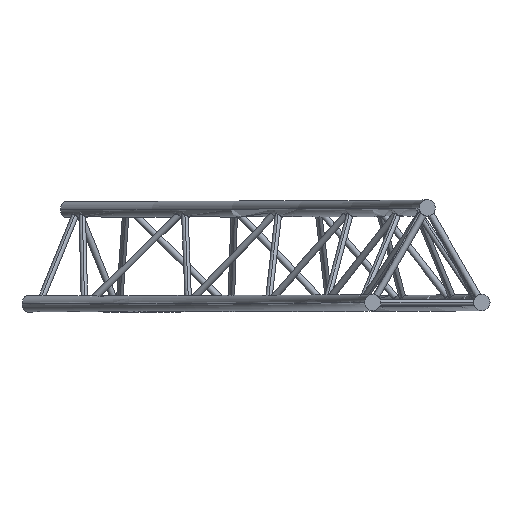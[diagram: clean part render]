
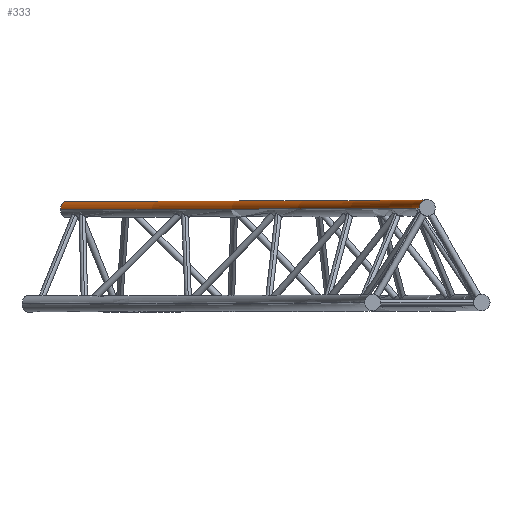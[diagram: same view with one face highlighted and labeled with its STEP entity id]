
A CAD part, top view. The second image highlights one B-rep face of the part: STEP entity #333.
In plain terms, the highlighted toroidal (fillet/blend) face has major radius 3806.5 mm and minor radius 25 mm.
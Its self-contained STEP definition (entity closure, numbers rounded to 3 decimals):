
#15 = VERTEX_POINT ( 'NONE', #531 ) ;
#32 = EDGE_CURVE ( 'NONE', #95, #15, #710, .T. ) ;
#42 = VERTEX_POINT ( 'NONE', #855 ) ;
#95 = VERTEX_POINT ( 'NONE', #1491 ) ;
#333 = ADVANCED_FACE ( 'NONE', ( #3200 ), #3197, .T. ) ;
#380 = EDGE_CURVE ( 'NONE', #15, #9348, #3561, .T. ) ;
#385 = ORIENTED_EDGE ( 'NONE', *, *, #380, .F. ) ;
#399 = ORIENTED_EDGE ( 'NONE', *, *, #400, .T. ) ;
#400 = EDGE_CURVE ( 'NONE', #95, #42, #3645, .T. ) ;
#401 = ORIENTED_EDGE ( 'NONE', *, *, #9373, .T. ) ;
#402 = ORIENTED_EDGE ( 'NONE', *, *, #32, .F. ) ;
#409 = EDGE_LOOP ( 'NONE', ( #402, #399, #401, #385 ) ) ;
#531 = CARTESIAN_POINT ( 'NONE',  ( 3831.5, 194.567, 0. ) ) ;
#706 = DIRECTION ( 'NONE',  ( 0., 0., -1. ) ) ;
#707 = DIRECTION ( 'NONE',  ( 0., -1., 0. ) ) ;
#708 = CARTESIAN_POINT ( 'NONE',  ( 0., 194.567, 0. ) ) ;
#709 = AXIS2_PLACEMENT_3D ( 'NONE', #708, #707, #706 ) ;
#710 = CIRCLE ( 'NONE', #709, 3831.5 ) ;
#855 = CARTESIAN_POINT ( 'NONE',  ( 2673.924, 194.567, -2673.924 ) ) ;
#1491 = CARTESIAN_POINT ( 'NONE',  ( 2709.28, 194.567, -2709.28 ) ) ;
#3197 = TOROIDAL_SURFACE ( 'NONE', #3199, 3806.5, 25. ) ;
#3198 = CARTESIAN_POINT ( 'NONE',  ( 0., 194.567, 0. ) ) ;
#3199 = AXIS2_PLACEMENT_3D ( 'NONE', #3198, #3281, #3280 ) ;
#3200 = FACE_OUTER_BOUND ( 'NONE', #409, .T. ) ;
#3280 = DIRECTION ( 'NONE',  ( 0., 0., -1. ) ) ;
#3281 = DIRECTION ( 'NONE',  ( 0., -1., 0. ) ) ;
#3329 = DIRECTION ( 'NONE',  ( 0.707, 0., -0.707 ) ) ;
#3561 = CIRCLE ( 'NONE', #3674, 25. ) ;
#3643 = DIRECTION ( 'NONE',  ( 0.707, 0., 0.707 ) ) ;
#3644 = AXIS2_PLACEMENT_3D ( 'NONE', #3649, #3643, #3329 ) ;
#3645 = CIRCLE ( 'NONE', #3644, 25. ) ;
#3649 = CARTESIAN_POINT ( 'NONE',  ( 2691.602, 194.567, -2691.602 ) ) ;
#3671 = DIRECTION ( 'NONE',  ( 1., 0., 0. ) ) ;
#3672 = DIRECTION ( 'NONE',  ( 0., 0., 1. ) ) ;
#3673 = CARTESIAN_POINT ( 'NONE',  ( 3806.5, 194.567, 0. ) ) ;
#3674 = AXIS2_PLACEMENT_3D ( 'NONE', #3673, #3672, #3671 ) ;
#4188 = CARTESIAN_POINT ( 'NONE',  ( 3781.5, 194.567, 0. ) ) ;
#4208 = CIRCLE ( 'NONE', #4234, 3781.5 ) ;
#4231 = DIRECTION ( 'NONE',  ( 0., 0., -1. ) ) ;
#4232 = DIRECTION ( 'NONE',  ( 0., -1., 0. ) ) ;
#4233 = CARTESIAN_POINT ( 'NONE',  ( 0., 194.567, 0. ) ) ;
#4234 = AXIS2_PLACEMENT_3D ( 'NONE', #4233, #4232, #4231 ) ;
#9348 = VERTEX_POINT ( 'NONE', #4188 ) ;
#9373 = EDGE_CURVE ( 'NONE', #42, #9348, #4208, .T. ) ;
